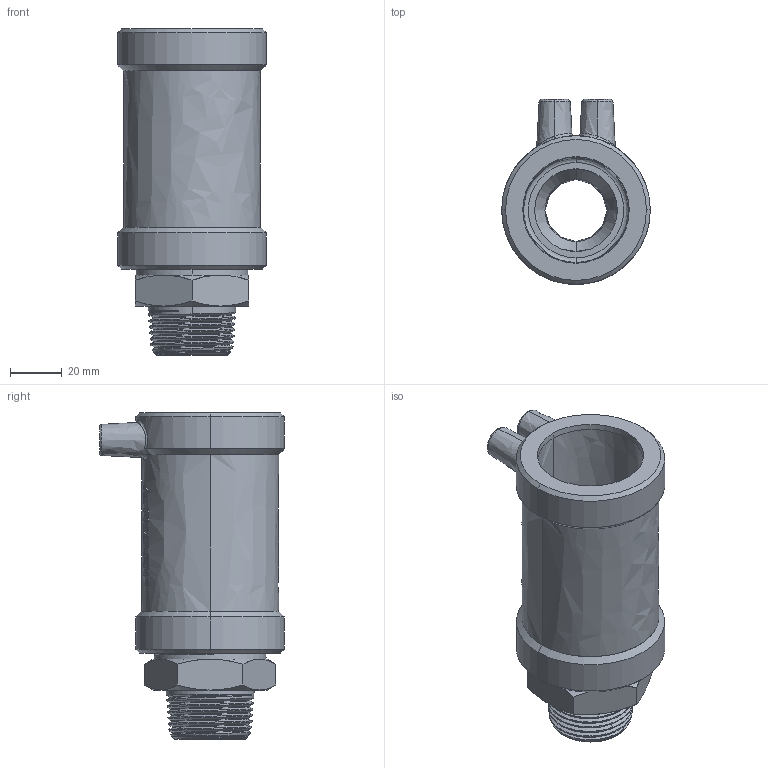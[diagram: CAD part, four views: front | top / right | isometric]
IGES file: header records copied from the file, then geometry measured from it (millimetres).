
Start section:  PTC IGES file: mun_d40_1_01.igs
Global section: file name: mun_d40_1_01.igs; native system: Pro/ENGINEER by Parametric Technology Corporation; preprocessor: 2011490; author: mtunjic; organization: Unknown; date: 20130823.152301; units: millimetre
Bounding box: 57.5 x 71.55 x 126.3 mm (x, y, z)
Surface area: 42046.7 mm2 (no closed solid volume)
Topology: 0 solids, 0 shells, 245 faces, 1246 edges, 1246 vertices
Faces by surface type: bspline 245
